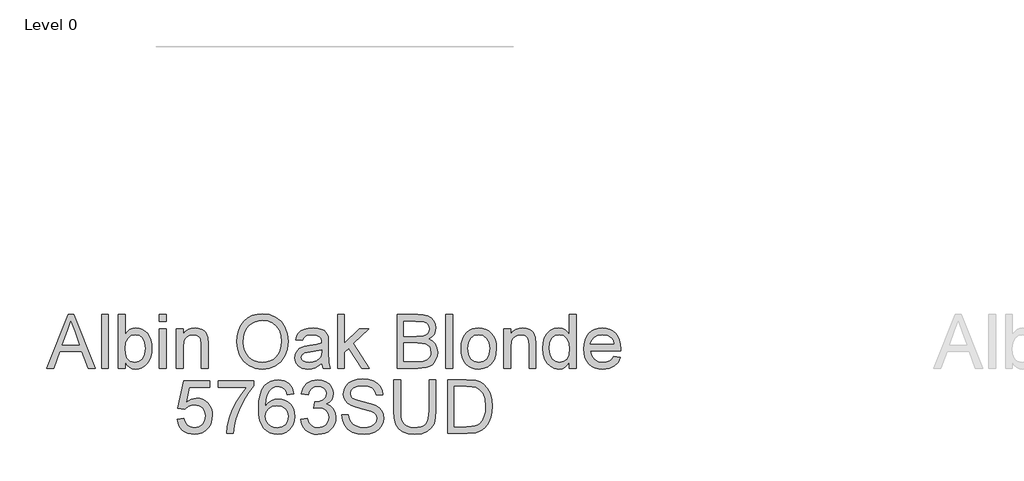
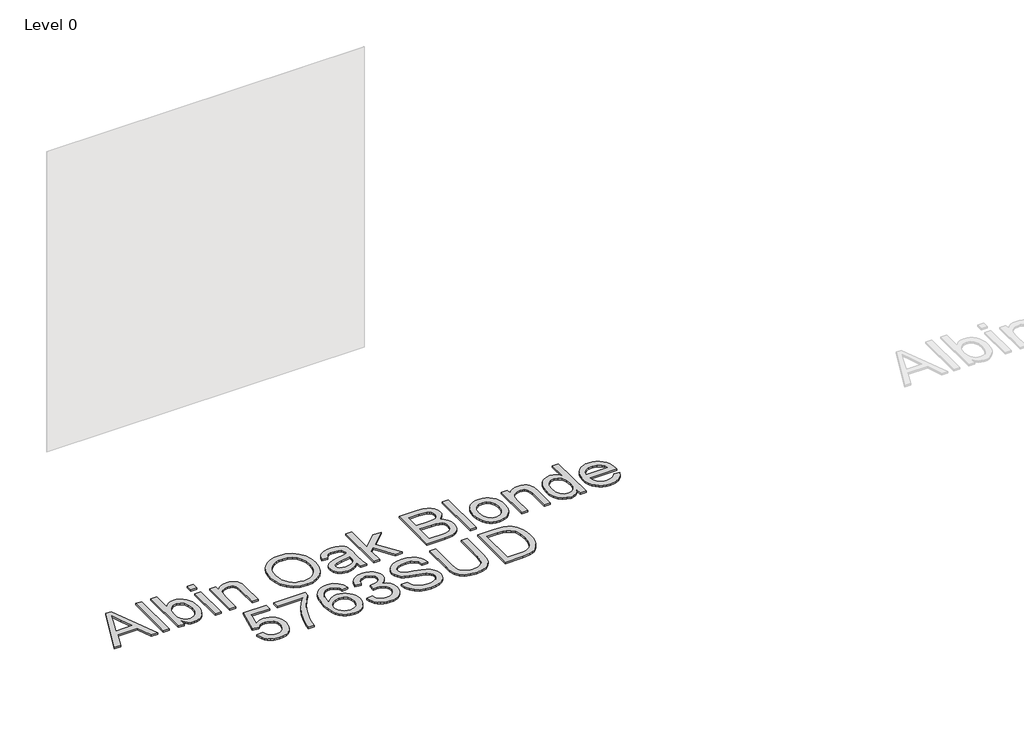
# One storey, part 30 of 43: 1 proxy.
"""IFC4 building model written with IfcOpenShell, lengths in millimetres."""

from ifc_helpers import new_model, si_unit, origin, origin_with_axes, place, context, project, spatial, polyline, outline, extrude, element, save

model = new_model("IFC4")

# Units and contexts
model_context = context("Model", 3, world=origin())
ifc_project = project(units=[si_unit("LENGTHUNIT", "METRE", prefix="MILLI")], contexts=[model_context])

# Site, building, storey
site = spatial("IfcSite", under=ifc_project)
building = spatial("IfcBuilding", under=site)
storey = spatial("IfcBuildingStorey", under=building, Name="Level 0", Elevation=0.0)

# Proxy
placement = place(None, origin())
element("IfcBuildingElementProxy", 1, Name="300mm Arial", ObjectType="300mm Arial", at=placement, inside=storey, context=model_context, shape_type="SweptSolid", body=[
    extrude(outline(polyline([(-1065.5864387, -7002.860494), (-945.2890263, -6701.4915635), (-913.2097163, -6701.4915635), (-792.9123039, -7002.860494), (-832.7171358, -7002.860494), (-867.2244669, -6908.6827032), (-991.3478521, -6908.6827032), (-1025.7816069, -7002.860494), (-1065.5864387, -7002.860494)]), holes=[polyline([(-977.5154891, -6871.0115869), (-880.9832536, -6871.0115869), (-908.1329448, -6796.9201531), (-929.2493713, -6739.1626798), (-948.0113531, -6790.44543), (-977.5154891, -6871.0115869)])]), origin_with_axes(), (0.0, 0.0, 1.0), 10.0),
    extrude(outline(polyline([(-757.3749032, -7002.860494), (-757.3749032, -6701.4915635), (-719.7037869, -6701.4915635), (-719.7037869, -7002.860494), (-757.3749032, -7002.860494)])), origin_with_axes(), (0.0, 0.0, 1.0), 10.0),
    extrude(outline(polyline([(-625.5259961, -7002.860494), (-663.1971124, -7002.860494), (-663.1971124, -6701.4915635), (-625.5259961, -6701.4915635), (-625.5259961, -6813.2541137), (-613.1375699, -6797.3202248), (-599.148857, -6785.9388755), (-583.5598575, -6779.110066), (-566.3705713, -6776.8337961), (-546.964796, -6778.8847383), (-528.6258786, -6785.0375646), (-512.4022826, -6794.9059992), (-499.3424718, -6808.1037657), (-489.1061552, -6824.5021057), (-481.3530422, -6843.9722603), (-476.4694087, -6865.7048891), (-474.8415309, -6888.8906519), (-476.5268903, -6915.64487), (-481.5829684, -6939.1801206), (-490.0097654, -6959.4964038), (-501.8072811, -6976.5937195), (-515.9684387, -6990.1455725), (-531.4861611, -6999.8254675), (-548.3604484, -7005.6334045), (-566.5913005, -7007.5693835), (-584.3462053, -7005.0723845), (-600.0869561, -6997.5813874), (-613.8135531, -6985.0963921), (-625.5259961, -6967.6173988), (-625.5259961, -7002.860494)]), holes=[polyline([(-625.5259961, -6890.6564855), (-622.9508221, -6922.0736078), (-615.2253002, -6943.3371872), (-606.0972282, -6954.9576597), (-595.4884312, -6963.2579972), (-583.3989091, -6968.2381997), (-569.828662, -6969.8982672), (-548.0868361, -6965.0054367), (-529.5087954, -6950.3269451), (-516.7616842, -6925.9547629), (-512.5126472, -6891.9808606), (-516.5869403, -6857.5103177), (-528.8098196, -6833.414047), (-546.8084462, -6819.2321961), (-568.2099813, -6814.5049125), (-589.9518072, -6819.397743), (-608.5298479, -6834.0762346), (-621.2769591, -6858.0069584), (-625.5259961, -6890.6564855)])]), origin_with_axes(), (0.0, 0.0, 1.0), 10.0),
    extrude(outline(polyline([(-432.461525, -6739.1626798), (-432.461525, -6701.4915635), (-394.7904087, -6701.4915635), (-394.7904087, -6739.1626798), (-432.461525, -6739.1626798)])), origin_with_axes(), (0.0, 0.0, 1.0), 10.0),
    extrude(outline(polyline([(-432.461525, -7002.860494), (-432.461525, -6781.5426857), (-394.7904087, -6781.5426857), (-394.7904087, -7002.860494), (-432.461525, -7002.860494)])), origin_with_axes(), (0.0, 0.0, 1.0), 10.0),
    extrude(outline(polyline([(-338.2837343, -7002.860494), (-338.2837343, -6781.5426857), (-300.612618, -6781.5426857), (-300.612618, -6812.4447733), (-287.525216, -6796.8649708), (-271.8074577, -6785.7365404), (-253.4593432, -6779.0594822), (-232.4808725, -6776.8337961), (-213.9120288, -6778.6272209), (-196.9066835, -6784.0074951), (-182.7248326, -6792.303234), (-172.6264718, -6802.8430532), (-161.3324946, -6830.5445674), (-159.3459318, -6866.964885), (-159.3459318, -7002.860494), (-197.0170481, -7002.860494), (-197.0170481, -6872.0416565), (-201.3580557, -6838.7115477), (-207.3637292, -6828.7879309), (-216.6987349, -6821.0900002), (-228.6640968, -6816.1511844), (-242.5608391, -6814.5049125), (-264.6245618, -6818.2021265), (-283.4325288, -6829.2937687), (-290.9488178, -6838.3482643), (-296.3175957, -6850.7228949), (-300.612618, -6885.4325611), (-300.612618, -7002.860494), (-338.2837343, -7002.860494)])), origin_with_axes(), (0.0, 0.0, 1.0), 10.0),
    extrude(outline(polyline([(0.7563125, -6856.1491543), (3.2671071, -6820.8002931), (10.799491, -6789.5073309), (23.353464, -6762.2702677), (40.9290264, -6739.0891034), (62.4731157, -6720.5800406), (86.9326699, -6707.3592814), (114.3076888, -6699.4268258), (144.5981726, -6696.782674), (184.127093, -6701.7490809), (219.5725232, -6716.6483017), (249.0030828, -6740.4318727), (270.4873913, -6772.0513302), (283.6207786, -6809.9799639), (287.9985743, -6852.6910636), (283.3908523, -6895.9723803), (269.5676864, -6934.4344429), (247.2924316, -6966.1090827), (217.328443, -6989.028131), (182.1865155, -7002.9340704), (144.3774434, -7007.5693835), (104.2415177, -7002.4466267), (68.5937524, -6987.0783564), (39.2367692, -6962.853327), (17.9731899, -6931.1602931), (5.0605318, -6894.6939903), (0.7563125, -6856.1491543)]), holes=[polyline([(38.4274288, -6856.5170363), (40.3105248, -6881.4916252), (45.9598126, -6903.661114), (55.3752925, -6923.0255025), (68.5569642, -6939.5847908), (84.5805243, -6952.8469367), (102.5216694, -6962.3198981), (122.3803994, -6968.0036749), (144.1567142, -6969.8982672), (166.3055096, -6967.9852808), (186.3987643, -6962.2463217), (204.4364784, -6952.6813898), (220.4186518, -6939.2904852), (233.5037545, -6922.381709), (242.8502565, -6902.2631624), (248.4581576, -6878.9348454), (250.327458, -6852.396758), (247.1268847, -6819.0482551), (237.5251646, -6790.2247008), (221.7706181, -6766.6526619), (200.1115657, -6749.0587055), (173.982747, -6738.1050191), (144.8189018, -6734.4537903), (123.7990443, -6736.2127261), (104.2967, -6741.4895335), (86.311869, -6750.2842124), (69.8445512, -6762.5967629), (56.0995601, -6779.0203948), (46.2817094, -6800.1483176), (40.3909989, -6825.9805314), (38.4274288, -6856.5170363)])]), origin_with_axes(), (0.0, 0.0, 1.0), 10.0),
    extrude(outline(polyline([(476.3541558, -6974.6071568), (458.3555292, -6990.0398064), (439.8234737, -7000.1381672), (420.334925, -7005.7115794), (399.4668189, -7007.5693835), (367.9853171, -7003.0996173), (344.7627662, -6989.6903186), (330.4429595, -6969.3280501), (325.6696906, -6943.9993748), (327.4723124, -6928.3827841), (332.8801777, -6914.2009331), (341.221902, -6902.0608273), (351.8261005, -6892.5694718), (378.2032395, -6880.2086368), (410.7975843, -6874.5432541), (449.3148292, -6868.5835657), (476.1334267, -6861.5938078), (476.3541558, -6853.2060983), (473.7605878, -6836.3938912), (465.9798836, -6825.3942195), (448.5790652, -6817.2272392), (424.3356417, -6814.5049125), (401.89484, -6816.3167313), (386.223067, -6821.7521878), (375.5360951, -6831.8045633), (368.0496965, -6847.4671392), (330.3785802, -6842.7582497), (336.9176826, -6822.156858), (346.6757525, -6805.9700502), (360.5632979, -6793.590821), (379.4908265, -6784.4121652), (402.6398011, -6778.7283884), (429.1916841, -6776.8337961), (454.6583152, -6778.5076592), (474.8458397, -6783.5292485), (490.0669572, -6791.0800264), (500.6343675, -6800.3414556), (507.6425195, -6811.7917827), (512.1858622, -6825.9092543), (514.0252722, -6858.8714811), (514.0252722, -6905.7396473), (515.9382585, -6971.1858542), (523.4430512, -7002.860494), (485.7719349, -7002.860494), (476.3541558, -6974.6071568)]), holes=[polyline([(476.3541558, -6899.2649241), (415.5800502, -6910.8164188), (383.1696465, -6916.9232599), (368.4911549, -6926.8560738), (363.3408069, -6941.3506244), (366.1459071, -6952.5526311), (374.5612078, -6961.7312869), (388.4027679, -6967.8565221), (407.4866464, -6969.8982672), (427.7201561, -6967.64499), (445.5992211, -6960.8851583), (460.0937717, -6950.9247533), (470.1737383, -6939.069756), (474.6435046, -6926.8560738), (476.1334267, -6909.933502), (476.3541558, -6899.2649241)])]), origin_with_axes(), (0.0, 0.0, 1.0), 10.0),
    extrude(outline(polyline([(565.8230571, -7002.860494), (565.8230571, -6701.4915635), (603.4941734, -6701.4915635), (603.4941734, -6863.4332178), (687.9598795, -6781.5426857), (740.05197, -6781.5426857), (654.5561943, -6864.4632874), (744.7608595, -7002.860494), (700.7621729, -7002.860494), (627.5536559, -6890.6564855), (603.4941734, -6913.9802039), (603.4941734, -7002.860494), (565.8230571, -7002.860494)])), origin_with_axes(), (0.0, 0.0, 1.0), 10.0),
    extrude(outline(polyline([(900.1542143, -7002.860494), (900.1542143, -6701.4915635), (1015.154126, -6701.4915635), (1046.7827805, -6703.7080526), (1071.4768594, -6710.3575196), (1090.4043881, -6721.6055116), (1104.7333918, -6737.6175755), (1113.7556977, -6756.4531336), (1116.7631331, -6776.1716086), (1114.2339443, -6794.317388), (1106.6463782, -6811.3779155), (1093.9452523, -6826.3047274), (1076.0753844, -6838.0493601), (1097.4217372, -6849.1961846), (1113.1946777, -6866.1555446), (1122.9343535, -6887.8054), (1126.1809121, -6913.0237108), (1123.9644231, -6934.0389697), (1117.314956, -6953.5275184), (1107.3913392, -6970.1006023), (1095.3524009, -6982.3694669), (1080.60953, -6991.253817), (1062.5741152, -6997.6733578), (1014.2712092, -7002.860494), (900.1542143, -7002.860494)]), holes=[polyline([(937.8253306, -6823.9226915), (1006.6192637, -6823.9226915), (1046.7919776, -6820.68533), (1060.8542668, -6815.1027207), (1070.9618247, -6806.7426024), (1077.0594687, -6795.7337336), (1079.0920167, -6782.2048733), (1077.1974245, -6769.071486), (1071.5136476, -6757.630356), (1062.2982037, -6748.7000206), (1049.8086099, -6743.0990172), (1001.3953394, -6739.1626798), (937.8253306, -6739.1626798), (937.8253306, -6823.9226915)]), polyline([(937.8253306, -6965.1893777), (1015.0805496, -6965.1893777), (1043.0395812, -6963.7178497), (1066.6943935, -6955.5140812), (1082.3661665, -6938.7754504), (1086.9738885, -6926.9480443), (1088.5097958, -6913.3915928), (1086.707174, -6897.6462434), (1081.2993087, -6884.1081859), (1071.8539385, -6873.5223815), (1057.938802, -6866.6337912), (1038.2295241, -6862.8538037), (1011.4017296, -6861.5938078), (937.8253306, -6861.5938078), (937.8253306, -6965.1893777)])]), origin_with_axes(), (0.0, 0.0, 1.0), 10.0),
    extrude(outline(polyline([(1173.2698075, -7002.860494), (1173.2698075, -6701.4915635), (1210.9409238, -6701.4915635), (1210.9409238, -7002.860494), (1173.2698075, -7002.860494)])), origin_with_axes(), (0.0, 0.0, 1.0), 10.0),
    extrude(outline(polyline([(1258.0298192, -6892.2015898), (1260.0669657, -6863.5389839), (1266.1784054, -6838.8403064), (1276.3641381, -6818.1055575), (1290.624164, -6801.334737), (1304.9807588, -6790.6155754), (1320.8272758, -6782.9590314), (1338.1637148, -6778.3651049), (1356.9900759, -6776.8337961), (1377.7731094, -6778.698498), (1396.5649815, -6784.2926036), (1413.3656924, -6793.6161129), (1428.175242, -6806.669026), (1440.2624648, -6823.0098843), (1448.8961953, -6842.1972296), (1454.0764337, -6864.2310619), (1455.8031798, -6889.1113811), (1452.7497592, -6927.1687735), (1443.5894976, -6956.1394806), (1428.5891092, -6977.8353213), (1408.0153086, -6994.0681143), (1383.5787471, -7004.1940662), (1356.9900759, -7007.5693835), (1335.9035398, -7005.7115794), (1316.9369237, -7000.1381672), (1300.0902276, -6990.8491468), (1285.3634514, -6977.8445183), (1273.4049873, -6961.3450108), (1264.8632273, -6941.5713536), (1259.7381712, -6918.5235466), (1258.0298192, -6892.2015898)]), holes=[polyline([(1295.7009355, -6892.1280134), (1300.0603372, -6926.2214773), (1313.1385421, -6950.5108861), (1332.8202288, -6965.0514219), (1356.9900759, -6969.8982672), (1381.0495584, -6965.0238308), (1400.6944569, -6950.4005215), (1413.7726619, -6925.789216), (1418.1320635, -6890.950791), (1413.7450707, -6857.8506085), (1400.5840923, -6833.8922936), (1380.9116026, -6819.3517577), (1356.9900759, -6814.5049125), (1332.8202288, -6819.3333636), (1313.1385421, -6833.8187172), (1300.0603372, -6858.0529436), (1295.7009355, -6892.1280134)])]), origin_with_axes(), (0.0, 0.0, 1.0), 10.0),
    extrude(outline(polyline([(1498.1831857, -7002.860494), (1498.1831857, -6781.5426857), (1535.854302, -6781.5426857), (1535.854302, -6812.4447733), (1548.9417039, -6796.8649708), (1564.6594622, -6785.7365404), (1583.0075767, -6779.0594822), (1603.9860475, -6776.8337961), (1622.5548912, -6778.6272209), (1639.5602364, -6784.0074951), (1653.7420873, -6792.303234), (1663.8404481, -6802.8430532), (1675.1344253, -6830.5445674), (1677.1209881, -6866.964885), (1677.1209881, -7002.860494), (1639.4498718, -7002.860494), (1639.4498718, -6872.0416565), (1635.1088643, -6838.7115477), (1629.1031907, -6828.7879309), (1619.7681851, -6821.0900002), (1607.8028232, -6816.1511844), (1593.9060808, -6814.5049125), (1571.8423581, -6818.2021265), (1553.0343911, -6829.2937687), (1545.5181021, -6838.3482643), (1540.1493243, -6850.7228949), (1535.854302, -6885.4325611), (1535.854302, -7002.860494), (1498.1831857, -7002.860494)])), origin_with_axes(), (0.0, 0.0, 1.0), 10.0),
    extrude(outline(polyline([(1865.4765696, -7002.860494), (1865.4765696, -6967.3230932), (1854.205585, -6984.9308452), (1840.5525645, -6997.507811), (1824.517508, -7005.0539904), (1806.1004156, -7007.5693835), (1781.7466275, -7003.9273518), (1759.4529786, -6993.0012565), (1740.5806323, -6975.5544529), (1726.4907519, -6952.350296), (1717.7167663, -6924.3268851), (1714.7921044, -6892.422319), (1717.48684, -6860.9132261), (1725.5710469, -6832.4575538), (1739.0355279, -6808.6739828), (1757.871086, -6791.181194), (1780.6521786, -6780.4206456), (1805.9532628, -6776.8337961), (1824.3841508, -6779.3997731), (1840.6813232, -6787.0977038), (1854.4952921, -6798.8975188), (1865.4765696, -6813.7691485), (1865.4765696, -6701.4915635), (1903.1476859, -6701.4915635), (1903.1476859, -7002.860494), (1865.4765696, -7002.860494)]), holes=[polyline([(1752.4632207, -6892.2751662), (1756.7122578, -6926.350236), (1769.4593689, -6950.5844625), (1787.9822274, -6965.069816), (1809.5585064, -6969.8982672), (1831.1255883, -6965.2905452), (1849.1793973, -6951.4673793), (1861.4022765, -6928.1712519), (1865.4765696, -6895.1446458), (1861.3287001, -6859.037028), (1848.8850917, -6834.0026582), (1830.3714302, -6819.3793489), (1808.013402, -6814.5049125), (1786.2163938, -6819.1862108), (1768.3557229, -6833.230106), (1756.4363463, -6857.3539678), (1752.4632207, -6892.2751662)])]), origin_with_axes(), (0.0, 0.0, 1.0), 10.0),
    extrude(outline(polyline([(2114.6062568, -6936.9360404), (2151.5416091, -6941.64493), (2138.2334779, -6969.4752029), (2116.9974897, -6990.2789297), (2088.3118912, -7003.2467701), (2052.6549288, -7007.5693835), (2029.2806265, -7005.7046817), (2008.4539071, -7000.1105761), (1990.1747704, -6990.7870668), (1974.4432166, -6977.7341537), (1961.7926745, -6961.3151204), (1952.756573, -6941.8932503), (1947.3349121, -6919.4685435), (1945.5276918, -6894.0409998), (1947.3533062, -6867.7512327), (1952.8301494, -6844.5792656), (1961.9582214, -6824.5250983), (1974.7375222, -6807.5887309), (1990.4276893, -6794.133447), (2008.2883602, -6784.5225298), (2028.3195348, -6778.7559796), (2050.5212132, -6776.8337961), (2072.007821, -6778.751381), (2091.4388881, -6784.5041357), (2108.8144146, -6794.0920602), (2124.1344004, -6807.5151545), (2136.640089, -6824.4147337), (2145.5727237, -6844.4321128), (2150.9323045, -6867.5672917), (2152.7188315, -6893.8202706), (2152.4981023, -6903.9738137), (1983.1988081, -6903.9738137), (1989.7195165, -6932.1719686), (2004.8670576, -6952.902119), (2026.7284452, -6965.6492302), (2053.3906928, -6969.8982672), (2073.4402615, -6967.9300985), (2090.3260451, -6962.0255925), (2104.0480435, -6951.8168672), (2114.6062568, -6936.9360404)]), holes=[polyline([(1983.1988081, -6866.3026974), (2115.0477152, -6866.3026974), (2109.9525495, -6846.4002814), (2099.9645534, -6832.1632482), (2078.0019983, -6818.9194964), (2050.3740604, -6814.5049125), (2024.9810057, -6818.0273826), (2003.9841408, -6828.5947929), (1989.3884227, -6845.0667092), (1983.1988081, -6866.3026974)])]), origin_with_axes(), (0.0, 0.0, 1.0), 10.0),
    extrude(outline(polyline([(-333.5748447, -7288.7338254), (-295.9037284, -7284.0249358), (-288.9875469, -7306.6404815), (-276.9210175, -7322.8364863), (-259.7593224, -7332.5761621), (-237.557644, -7335.8227207), (-210.5551055, -7331.3069693), (-190.3215958, -7317.7597148), (-177.6848493, -7296.7444558), (-173.4726004, -7269.8246908), (-177.4181348, -7244.4776213), (-189.254738, -7225.0902402), (-209.0743805, -7212.7845875), (-236.9690328, -7208.6827032), (-255.2435709, -7210.3197781), (-270.0416242, -7215.2310027), (-291.1948389, -7232.2271509), (-328.8659552, -7227.5182614), (-295.9037284, -7072.1249066), (-149.9281527, -7072.1249066), (-149.9281527, -7109.7960229), (-265.4430992, -7109.7960229), (-281.5563306, -7192.790201), (-254.6457627, -7176.4562404), (-226.4476077, -7171.0115869), (-208.1017925, -7172.6992456), (-191.2504978, -7177.7622215), (-175.8937238, -7186.2005148), (-162.0314704, -7198.0141254), (-150.5558514, -7212.4810848), (-142.3589807, -7228.8794248), (-137.4408583, -7247.2091452), (-135.8014841, -7267.470246), (-141.7059901, -7305.1413624), (-149.0866227, -7321.9351754), (-159.4195082, -7337.3678251), (-175.0728871, -7353.1729553), (-193.3382282, -7364.4623341), (-214.2155314, -7371.2359613), (-237.7047968, -7373.4938371), (-274.7045285, -7367.6904986), (-290.3831992, -7360.4363255), (-304.1810733, -7350.2804832), (-315.6612908, -7337.7288093), (-324.3869919, -7323.2871418), (-333.5748447, -7288.7338254)])), origin_with_axes(), (0.0, 0.0, 1.0), 10.0),
    extrude(outline(polyline([(-102.8392574, -7109.7960229), (-102.8392574, -7072.1249066), (94.9341033, -7072.1249066), (94.9341033, -7102.5855358), (66.7451454, -7138.2608923), (38.832099, -7183.6299393), (14.2115965, -7234.5540045), (-4.0997299, -7286.8944154), (-13.0760505, -7326.0554538), (-18.0792457, -7368.7849475), (-55.750362, -7368.7849475), (-51.6760689, -7329.9550029), (-40.7775648, -7283.8042066), (-23.3491552, -7234.8850983), (0.3148541, -7187.7502177), (27.9427919, -7145.1402856), (57.2629869, -7109.7960229), (-102.8392574, -7109.7960229)])), origin_with_axes(), (0.0, 0.0, 1.0), 10.0),
    extrude(outline(polyline([(320.9608011, -7147.4671392), (283.2896848, -7152.1760288), (277.2196319, -7133.5060175), (269.0158634, -7120.7589064), (251.9277447, -7109.0050766), (231.2711707, -7105.0871334), (213.7599877, -7107.3680017), (197.2788743, -7114.2106069), (183.1246145, -7128.622384), (171.5639228, -7148.4604206), (163.7556275, -7176.5206198), (160.8585568, -7215.5988847), (175.9693097, -7197.9681401), (194.078301, -7185.5429257), (214.1738549, -7178.1760888), (235.2442962, -7175.7204764), (253.3440904, -7177.3989381), (270.045933, -7182.4343229), (285.349824, -7190.8266309), (299.2557634, -7202.5758621), (310.8118565, -7216.9830407), (319.0662088, -7233.349191), (324.0188202, -7251.6743129), (325.6696906, -7271.9584064), (322.5610878, -7298.9333537), (313.2352792, -7323.9401323), (298.4648171, -7345.1485293), (279.0222536, -7360.7283318), (255.7905056, -7370.3024607), (229.6524899, -7373.4938371), (207.1955933, -7371.3785156), (186.9137991, -7365.0325512), (168.8071071, -7354.4559438), (152.8755175, -7339.6486935), (139.8869838, -7319.9854009), (130.6094597, -7294.8406665), (125.0429453, -7264.2144904), (123.1874405, -7228.1068726), (125.2475797, -7187.6260575), (131.4279972, -7153.0773396), (141.728693, -7124.4607189), (156.1496672, -7101.7761954), (171.7800535, -7086.7436174), (189.9028403, -7076.0060617), (210.5180276, -7069.5635282), (233.6256154, -7067.4160171), (266.6798127, -7072.7319119), (293.1489223, -7088.6795964), (311.6901748, -7114.0082718), (320.9608011, -7147.4671392)]), holes=[polyline([(160.8585568, -7271.3697952), (163.0382576, -7288.0624407), (169.5773601, -7304.0009282), (179.7309031, -7317.7045325), (192.7539258, -7327.6925287), (208.471684, -7333.7901727), (226.7094339, -7335.8227207), (251.5690597, -7331.6104719), (271.1127907, -7318.9737254), (283.7771284, -7299.1080976), (287.9985743, -7273.2092052), (283.8323107, -7248.3495793), (271.3335199, -7229.3944595), (251.4586951, -7217.3923095), (225.1643295, -7213.3915928), (200.3414919, -7217.3923095), (179.5837503, -7229.3944595), (165.5398552, -7247.8897269), (160.8585568, -7271.3697952)])]), origin_with_axes(), (0.0, 0.0, 1.0), 10.0),
    extrude(outline(polyline([(358.6319174, -7288.7338254), (396.3030337, -7284.0249358), (404.7367284, -7307.6981422), (417.0883664, -7323.6826149), (433.964953, -7332.7876943), (455.9734933, -7335.8227207), (481.7988094, -7331.6472601), (501.7380135, -7319.1208782), (514.4851246, -7300.4324728), (518.7341617, -7277.7709419), (514.5219128, -7256.2590422), (501.8851663, -7238.8122386), (482.7553026, -7227.2515469), (459.0637021, -7223.397983), (432.6497748, -7227.5182614), (436.8436296, -7189.8471451), (442.8768943, -7190.2886035), (465.4464547, -7187.5846708), (485.6247821, -7179.4728728), (499.8618153, -7165.7508744), (504.6074931, -7146.2163404), (501.1677964, -7129.9467592), (490.8487065, -7116.7489926), (475.1033571, -7108.0025982), (455.3848821, -7105.0871334), (435.629619, -7108.0301893), (419.4795994, -7116.8593572), (407.6889814, -7131.574637), (401.0119232, -7152.1760288), (363.3408069, -7147.4671392), (374.4324491, -7113.6403898), (394.1693181, -7088.3852908), (421.1718566, -7072.6583355), (454.0605069, -7067.4160171), (477.7429104, -7070.0003881), (499.4939333, -7077.7535011), (517.8328508, -7089.9855775), (531.2789377, -7106.0068384), (539.5286915, -7124.4653175), (542.2786094, -7144.0090485), (539.6666472, -7162.2192072), (531.8307607, -7178.7371088), (518.8813145, -7192.8085951), (500.9286731, -7203.6795081), (524.509909, -7213.2076518), (541.9843038, -7229.4312477), (552.8000344, -7251.4673793), (556.405278, -7278.4331295), (554.6026562, -7297.5445992), (549.1947909, -7315.1477526), (540.181682, -7331.2425899), (527.5633296, -7345.829111), (512.1904607, -7357.9324287), (494.9138025, -7366.5776555), (475.733355, -7371.7647917), (454.6491181, -7373.4938371), (435.5928308, -7372.0177105), (418.2288006, -7367.589331), (402.5570276, -7360.2086985), (388.5775118, -7349.875813), (376.8558717, -7337.1976797), (367.957726, -7322.781304), (361.8830745, -7306.6266859), (358.6319174, -7288.7338254)])), origin_with_axes(), (0.0, 0.0, 1.0), 10.0),
    extrude(outline(polyline([(589.3675048, -7265.1893777), (627.0386211, -7265.1893777), (631.3612345, -7286.0942721), (639.1787269, -7302.8972822), (651.3740151, -7316.2330045), (668.8300157, -7326.7360355), (690.1671714, -7333.5510494), (714.0059247, -7335.8227207), (734.9935926, -7334.1028724), (753.3692982, -7328.9433274), (768.259322, -7320.7763471), (778.7899441, -7310.0341929), (785.0531351, -7297.700949), (787.1408654, -7284.7606998), (785.5773669, -7272.1515444), (780.8868715, -7261.2530403), (771.3587278, -7251.9548229), (755.2822846, -7244.1465276), (700.4310791, -7229.7623415), (664.4246288, -7220.2433949), (641.3860189, -7211.1843008), (622.6332342, -7198.510766), (609.3434971, -7183.1516928), (601.4248372, -7165.4381747), (598.7852838, -7145.7013056), (602.0502366, -7123.637583), (611.8450947, -7103.0637824), (627.9123408, -7085.6261758), (649.9944576, -7072.9710352), (676.5003553, -7065.2731044), (705.8389444, -7062.7071275), (737.6239488, -7065.3926661), (765.4358277, -7073.4492818), (788.2812996, -7086.7114277), (805.1670831, -7105.013557), (815.8540551, -7127.2152354), (820.1030921, -7152.1760288), (782.4319758, -7152.1760288), (775.5157943, -7129.6984389), (761.0948201, -7113.4748429), (738.5620479, -7103.6523936), (707.3104724, -7100.3782438), (675.3231329, -7103.6156054), (653.3789719, -7113.3276901), (640.6870431, -7127.6199056), (636.4564002, -7144.5976597), (639.4546384, -7159.0738162), (648.4493532, -7170.7172813), (669.7129325, -7181.1283418), (709.9592228, -7191.7601314), (751.4931, -7201.8584922), (776.6194403, -7210.669266), (798.0945518, -7224.3360821), (813.076546, -7241.2034716), (821.8781228, -7261.0874934), (824.8119817, -7283.8042066), (821.4366644, -7307.0267576), (811.3107125, -7328.869751), (794.8479932, -7347.668521), (772.4623738, -7361.7584014), (745.5426088, -7370.5599781), (715.4774527, -7373.4938371), (678.5696915, -7370.3300519), (648.1918358, -7360.8386964), (623.9943976, -7344.9829824), (605.627889, -7322.7261217), (593.837271, -7295.6132187), (589.3675048, -7265.1893777)])), origin_with_axes(), (0.0, 0.0, 1.0), 10.0),
    extrude(outline(polyline([(1079.0920167, -7067.4160171), (1116.7631331, -7067.4160171), (1116.7631331, -7241.277048), (1114.2063532, -7281.9923878), (1106.5360136, -7313.3451308), (1092.2070099, -7337.533372), (1069.6742377, -7356.7552063), (1038.8825147, -7369.3091794), (999.7766586, -7373.4938371), (961.5261281, -7369.8518053), (930.9459373, -7358.92571), (908.026889, -7341.0926303), (892.7597862, -7316.7296452), (884.1789387, -7284.052527), (881.3186561, -7241.277048), (881.3186561, -7067.4160171), (918.9897724, -7067.4160171), (918.9897724, -7239.9526728), (920.8475765, -7273.8070134), (926.4209887, -7297.3790523), (936.5193495, -7313.7038158), (951.9519992, -7325.8163305), (972.0751444, -7333.3211232), (996.2449914, -7335.8227207), (1034.5599012, -7330.8747079), (1048.9027005, -7324.6896919), (1060.0357294, -7316.0306694), (1068.3728551, -7303.8537754), (1074.3279449, -7287.1151446), (1079.0920167, -7239.9526728), (1079.0920167, -7067.4160171)])), origin_with_axes(), (0.0, 0.0, 1.0), 10.0),
    extrude(outline(polyline([(1182.6875866, -7368.7849475), (1182.6875866, -7067.4160171), (1286.6510384, -7067.4160171), (1340.4353861, -7071.7570246), (1364.4580804, -7080.12634), (1384.7283783, -7093.3149095), (1405.5688934, -7116.270746), (1420.4129319, -7144.8183889), (1429.2972821, -7178.406015), (1432.2587321, -7216.4818015), (1430.2537752, -7248.8278259), (1424.2389046, -7277.2926953), (1415.0786429, -7301.5269217), (1403.6375129, -7321.1810173), (1390.4673375, -7336.6964405), (1376.1199397, -7348.5146496), (1359.6480233, -7357.2794381), (1340.1042923, -7363.6345996), (1291.6542336, -7368.7849475), (1182.6875866, -7368.7849475)]), holes=[polyline([(1220.3587029, -7331.1138312), (1287.0189204, -7331.1138312), (1314.591676, -7329.7526678), (1335.5057674, -7325.6691777), (1351.287905, -7319.1024841), (1363.464799, -7310.2917103), (1376.552201, -7293.9853408), (1386.3838473, -7272.8781114), (1392.5366737, -7246.8780514), (1394.5876158, -7215.8931903), (1390.568505, -7174.8375597), (1378.5111726, -7144.5240833), (1360.696487, -7123.7019623), (1339.4053165, -7111.1203981), (1317.737067, -7106.5954496), (1285.9888508, -7105.0871334), (1220.3587029, -7105.0871334), (1220.3587029, -7331.1138312)])]), origin_with_axes(), (0.0, 0.0, 1.0), 10.0),
])

save(model, "model.ifc")
